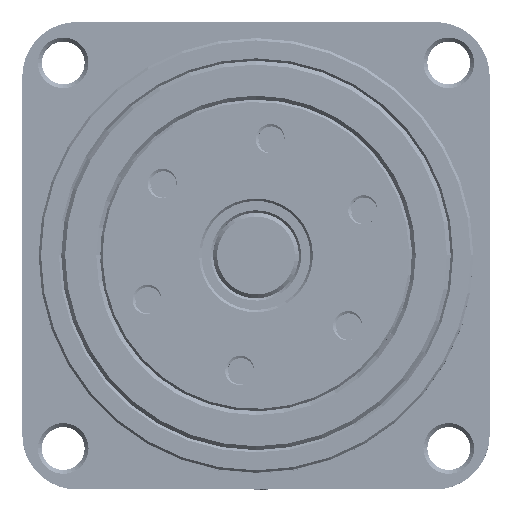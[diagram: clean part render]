
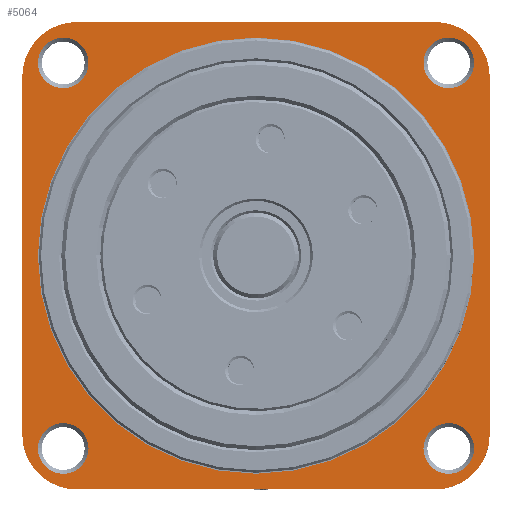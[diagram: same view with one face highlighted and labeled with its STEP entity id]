
A CAD part, top view. The second image highlights one B-rep face of the part: STEP entity #5064.
In plain terms, the highlighted planar face has unit normal (0, 0, 1).
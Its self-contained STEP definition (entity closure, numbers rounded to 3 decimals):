
#2873=FACE_BOUND('',#8282,.T.);
#2874=FACE_BOUND('',#8283,.T.);
#2875=FACE_BOUND('',#8284,.T.);
#2876=FACE_BOUND('',#8285,.T.);
#2877=FACE_BOUND('',#8286,.T.);
#2878=FACE_BOUND('',#8287,.T.);
#3896=CIRCLE('',#22897,28.);
#3915=CIRCLE('',#22923,3.25);
#3916=CIRCLE('',#22924,3.25);
#3917=CIRCLE('',#22925,3.25);
#3918=CIRCLE('',#22926,3.25);
#3919=CIRCLE('',#22927,7.);
#3920=CIRCLE('',#22928,7.);
#3921=CIRCLE('',#22929,7.);
#3922=CIRCLE('',#22930,7.);
#5064=ADVANCED_FACE('',(#2873,#2874,#2875,#2876,#2877,#2878),#5877,.F.);
#5877=PLANE('',#22931);
#8282=EDGE_LOOP('',(#13005));
#8283=EDGE_LOOP('',(#13006));
#8284=EDGE_LOOP('',(#13007));
#8285=EDGE_LOOP('',(#13008));
#8286=EDGE_LOOP('',(#13009));
#8287=EDGE_LOOP('',(#13010,#13011,#13012,#13013,#13014,#13015,#13016,#13017));
#13005=ORIENTED_EDGE('',*,*,#18516,.T.);
#13006=ORIENTED_EDGE('',*,*,#18517,.T.);
#13007=ORIENTED_EDGE('',*,*,#18518,.T.);
#13008=ORIENTED_EDGE('',*,*,#18519,.T.);
#13009=ORIENTED_EDGE('',*,*,#18481,.T.);
#13010=ORIENTED_EDGE('',*,*,#18493,.F.);
#13011=ORIENTED_EDGE('',*,*,#18520,.T.);
#13012=ORIENTED_EDGE('',*,*,#18503,.F.);
#13013=ORIENTED_EDGE('',*,*,#18521,.T.);
#13014=ORIENTED_EDGE('',*,*,#18501,.F.);
#13015=ORIENTED_EDGE('',*,*,#18522,.T.);
#13016=ORIENTED_EDGE('',*,*,#18497,.F.);
#13017=ORIENTED_EDGE('',*,*,#18523,.T.);
#15860=VERTEX_POINT('',#294325);
#15872=VERTEX_POINT('',#294350);
#15873=VERTEX_POINT('',#294352);
#15876=VERTEX_POINT('',#294359);
#15877=VERTEX_POINT('',#294361);
#15880=VERTEX_POINT('',#294368);
#15881=VERTEX_POINT('',#294370);
#15882=VERTEX_POINT('',#294374);
#15883=VERTEX_POINT('',#294375);
#15891=VERTEX_POINT('',#294398);
#15892=VERTEX_POINT('',#294400);
#15893=VERTEX_POINT('',#294402);
#15894=VERTEX_POINT('',#294404);
#18481=EDGE_CURVE('',#15860,#15860,#3896,.T.);
#18493=EDGE_CURVE('',#15872,#15873,#19974,.T.);
#18497=EDGE_CURVE('',#15876,#15877,#19978,.T.);
#18501=EDGE_CURVE('',#15880,#15881,#19982,.T.);
#18503=EDGE_CURVE('',#15882,#15883,#19984,.T.);
#18516=EDGE_CURVE('',#15891,#15891,#3915,.T.);
#18517=EDGE_CURVE('',#15892,#15892,#3916,.T.);
#18518=EDGE_CURVE('',#15893,#15893,#3917,.T.);
#18519=EDGE_CURVE('',#15894,#15894,#3918,.T.);
#18520=EDGE_CURVE('',#15872,#15883,#3919,.T.);
#18521=EDGE_CURVE('',#15882,#15881,#3920,.T.);
#18522=EDGE_CURVE('',#15880,#15877,#3921,.T.);
#18523=EDGE_CURVE('',#15876,#15873,#3922,.T.);
#19974=LINE('',#294351,#21071);
#19978=LINE('',#294360,#21075);
#19982=LINE('',#294369,#21079);
#19984=LINE('',#294373,#21081);
#21071=VECTOR('',#27325,1.);
#21075=VECTOR('',#27331,1.);
#21079=VECTOR('',#27337,1.);
#21081=VECTOR('',#27341,1.);
#22897=AXIS2_PLACEMENT_3D('',#294324,#27299,#27300);
#22923=AXIS2_PLACEMENT_3D('',#294397,#27367,#27368);
#22924=AXIS2_PLACEMENT_3D('',#294399,#27369,#27370);
#22925=AXIS2_PLACEMENT_3D('',#294401,#27371,#27372);
#22926=AXIS2_PLACEMENT_3D('',#294403,#27373,#27374);
#22927=AXIS2_PLACEMENT_3D('',#294405,#27375,#27376);
#22928=AXIS2_PLACEMENT_3D('',#294406,#27377,#27378);
#22929=AXIS2_PLACEMENT_3D('',#294407,#27379,#27380);
#22930=AXIS2_PLACEMENT_3D('',#294408,#27381,#27382);
#22931=AXIS2_PLACEMENT_3D('',#294409,#27383,#27384);
#27299=DIRECTION('',(0.,0.,-1.));
#27300=DIRECTION('',(1.,0.,0.));
#27325=DIRECTION('',(0.,1.,0.));
#27331=DIRECTION('',(1.,0.,0.));
#27337=DIRECTION('',(0.,-1.,0.));
#27341=DIRECTION('',(-1.,0.,0.));
#27367=DIRECTION('',(0.,0.,-1.));
#27368=DIRECTION('',(1.,0.,0.));
#27369=DIRECTION('',(0.,0.,-1.));
#27370=DIRECTION('',(1.,0.,0.));
#27371=DIRECTION('',(0.,0.,-1.));
#27372=DIRECTION('',(1.,0.,0.));
#27373=DIRECTION('',(0.,0.,-1.));
#27374=DIRECTION('',(1.,0.,0.));
#27375=DIRECTION('',(0.,0.,1.));
#27376=DIRECTION('',(1.,0.,0.));
#27377=DIRECTION('',(0.,0.,1.));
#27378=DIRECTION('',(1.,0.,0.));
#27379=DIRECTION('',(0.,0.,1.));
#27380=DIRECTION('',(1.,0.,0.));
#27381=DIRECTION('',(0.,0.,1.));
#27382=DIRECTION('',(1.,0.,0.));
#27383=DIRECTION('',(0.,0.,-1.));
#27384=DIRECTION('',(1.,0.,0.));
#294324=CARTESIAN_POINT('',(17.854,-17.854,20.5));
#294325=CARTESIAN_POINT('',(45.854,-17.854,20.5));
#294350=CARTESIAN_POINT('',(-12.146,-40.854,20.5));
#294351=CARTESIAN_POINT('',(-12.146,-47.854,20.5));
#294352=CARTESIAN_POINT('',(-12.146,5.146,20.5));
#294359=CARTESIAN_POINT('',(-5.146,12.146,20.5));
#294360=CARTESIAN_POINT('',(-12.146,12.146,20.5));
#294361=CARTESIAN_POINT('',(40.854,12.146,20.5));
#294368=CARTESIAN_POINT('',(47.854,5.146,20.5));
#294369=CARTESIAN_POINT('',(47.854,12.146,20.5));
#294370=CARTESIAN_POINT('',(47.854,-40.854,20.5));
#294373=CARTESIAN_POINT('',(17.854,-47.854,20.5));
#294374=CARTESIAN_POINT('',(40.854,-47.854,20.5));
#294375=CARTESIAN_POINT('',(-5.146,-47.854,20.5));
#294397=CARTESIAN_POINT('',(-6.894,6.894,20.5));
#294398=CARTESIAN_POINT('',(-3.644,6.894,20.5));
#294399=CARTESIAN_POINT('',(-6.894,-42.603,20.5));
#294400=CARTESIAN_POINT('',(-3.644,-42.603,20.5));
#294401=CARTESIAN_POINT('',(42.603,-42.603,20.5));
#294402=CARTESIAN_POINT('',(45.853,-42.603,20.5));
#294403=CARTESIAN_POINT('',(42.603,6.894,20.5));
#294404=CARTESIAN_POINT('',(45.853,6.894,20.5));
#294405=CARTESIAN_POINT('',(-5.146,-40.854,20.5));
#294406=CARTESIAN_POINT('',(40.854,-40.854,20.5));
#294407=CARTESIAN_POINT('',(40.854,5.146,20.5));
#294408=CARTESIAN_POINT('',(-5.146,5.146,20.5));
#294409=CARTESIAN_POINT('',(17.854,-17.854,20.5));
